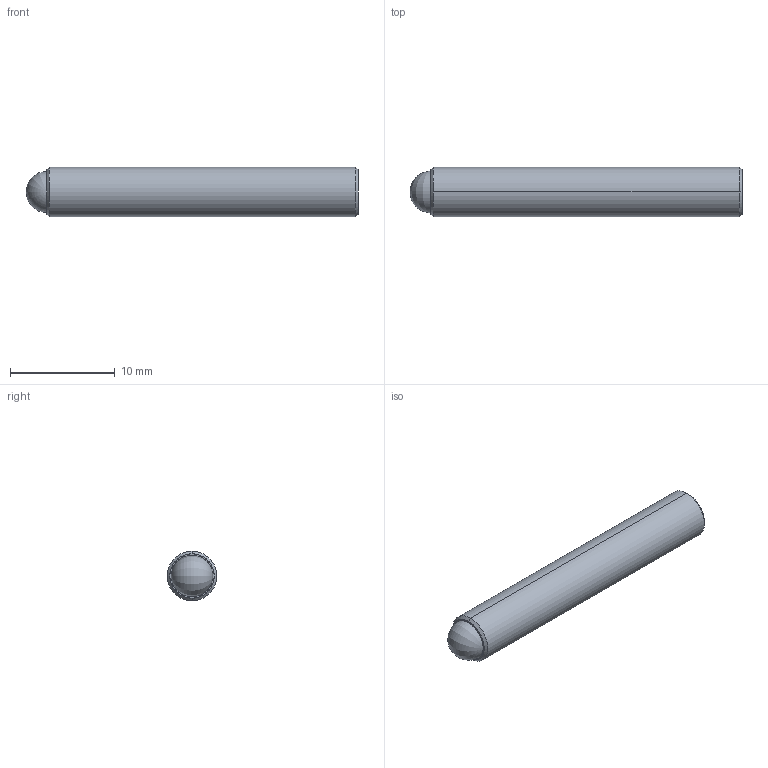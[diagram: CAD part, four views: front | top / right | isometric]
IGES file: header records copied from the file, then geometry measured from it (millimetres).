
Start section: SolidWorks IGES file using analytic representation for surfaces
Global section: file name: C:\Users\workpc\Desktop\KMA Solidworks\TS187-100-1250-AA.IGS; native system: SolidWorks 2013; preprocessor: SolidWorks 2013; author: workpc; date: 130211.121006; units: inch
Bounding box: 31.75 x 4.75 x 4.75 mm (x, y, z)
Surface area: 568 mm2 (no closed solid volume)
Topology: 0 solids, 0 shells, 20 faces, 204 edges, 200 vertices
Faces by surface type: revolution 10, bspline 10
